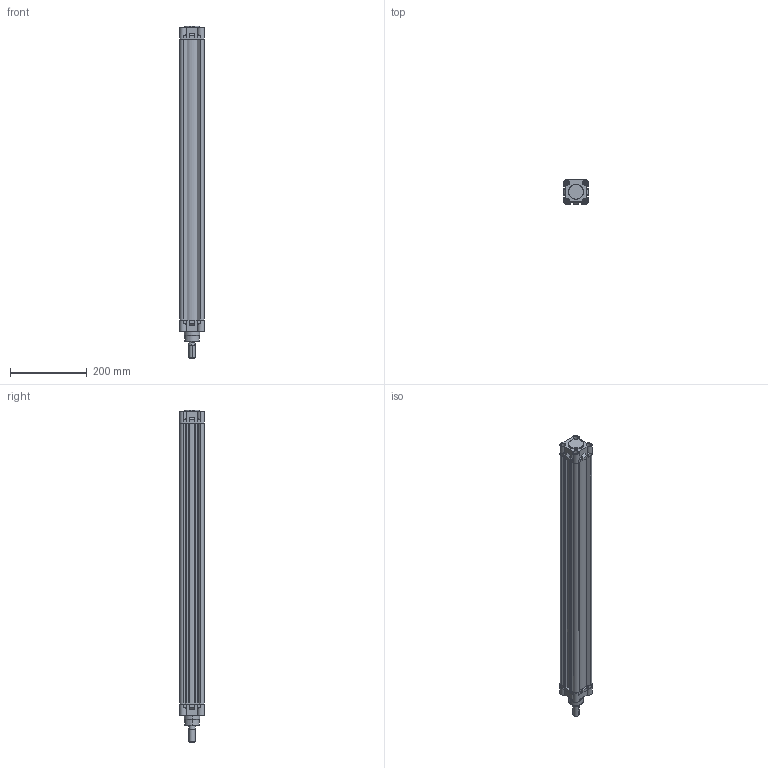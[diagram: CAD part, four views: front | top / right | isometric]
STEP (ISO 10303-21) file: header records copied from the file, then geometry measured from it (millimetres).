
FILE_DESCRIPTION (( 'STEP AP214' ), '1' );
FILE_NAME ('RIC50_700_MY_WEB.STEP', '2020-07-05T17:35:28', ( '' ), ( '' ), 'SwSTEP 2.0', 'SolidWorks 2018', '' );
FILE_SCHEMA (( 'AUTOMOTIVE_DESIGN' ));
Length unit declared in the file: millimetre
Products named in the file (6): 50_ARKA_KAPAK_WEB; 50_ON_KAPAK_WEB; 50bogazkecesi; 50_BORU; RIC50_700_MY_WEB; 20_MIL_WEB
Assembly tree (5 placements, depth 2):
  RIC50_700_MY_WEB
    50_BORU
    50_ARKA_KAPAK_WEB
    50_ON_KAPAK_WEB
    20_MIL_WEB
    50bogazkecesi
Bounding box: 65 x 65 x 865 mm (x, y, z)
Volume: 1207224.8 mm3; surface area: 490090.8 mm2
Topology: 5 solids, 5 shells, 576 faces, 1465 edges, 952 vertices
Faces by surface type: plane 265, cylinder 172, bspline 83, cone 40, torus 16
Entity records: 23952 total; most frequent: CARTESIAN_POINT 8155, ORIENTED_EDGE 2930, DIRECTION 2697, EDGE_CURVE 1465, VERTEX_POINT 952, AXIS2_PLACEMENT_3D 919, LINE 859, VECTOR 859
